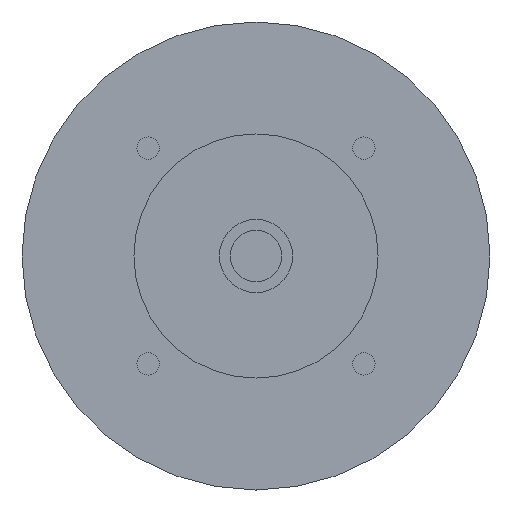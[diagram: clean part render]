
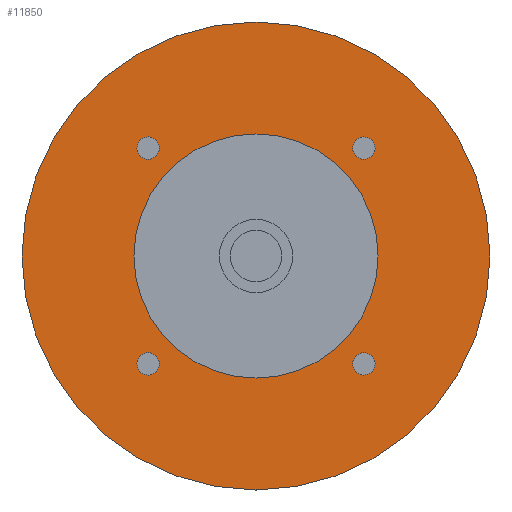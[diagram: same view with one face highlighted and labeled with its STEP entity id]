
A CAD part, left-side view. The second image highlights one B-rep face of the part: STEP entity #11850.
In plain terms, the highlighted planar face has unit normal (-1, 0, 0) as drawn and (0, 0, -1) by its records, which use the part's own axes.
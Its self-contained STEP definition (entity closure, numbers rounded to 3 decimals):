
#8700=CARTESIAN_POINT('',(30.,0.,-47.4));
#8710=VERTEX_POINT('',#8700);
#8740=CARTESIAN_POINT('',(0.,0.,
-47.4));
#8750=DIRECTION('',(0.,0.,1.));
#8760=DIRECTION('',(1.,0.,0.));
#8770=AXIS2_PLACEMENT_3D('',#8740,#8750,#8760);
#8780=CIRCLE('',#8770,30.);
#8790=CARTESIAN_POINT('',(-30.,0.,-47.4));
#8800=VERTEX_POINT('',#8790);
#8810=EDGE_CURVE('',#8710,#8800,#8780,.T.);
#10870=CARTESIAN_POINT('',(29.267,-26.517,-47.4));
#10880=VERTEX_POINT('',#10870);
#10910=CARTESIAN_POINT('',(26.517,-26.517,-47.4));
#10920=DIRECTION('',(0.,0.,1.));
#10930=DIRECTION('',(-1.,0.,0.));
#10940=AXIS2_PLACEMENT_3D('',#10910,#10920,#10930);
#10950=CIRCLE('',#10940,2.75);
#10960=CARTESIAN_POINT('',(23.767,-26.517,-47.4));
#10970=VERTEX_POINT('',#10960);
#10980=EDGE_CURVE('',#10880,#10970,#10950,.T.);
#11100=CARTESIAN_POINT('',(43.75,0.,-47.4));
#11110=DIRECTION('',(0.,0.,-1.));
#11120=DIRECTION('',(1.,0.,0.));
#11130=AXIS2_PLACEMENT_3D('',#11100,#11110,#11120);
#11140=PLANE('',#11130);
#11150=ORIENTED_EDGE('',*,*,#8810,.T.);
#11160=EDGE_CURVE('',#8800,#8710,#8780,.T.);
#11170=ORIENTED_EDGE('',*,*,#11160,.T.);
#11180=EDGE_LOOP('',(#11170,#11150));
#11190=FACE_BOUND('',#11180,.T.);
#11200=CARTESIAN_POINT('',(0.,0.,
-47.4));
#11210=DIRECTION('',(0.,0.,1.));
#11220=DIRECTION('',(1.,0.,0.));
#11230=AXIS2_PLACEMENT_3D('',#11200,#11210,#11220);
#11240=CIRCLE('',#11230,57.5);
#11250=CARTESIAN_POINT('',(57.5,0.,-47.4));
#11260=VERTEX_POINT('',#11250);
#11270=CARTESIAN_POINT('',(-57.5,0.,-47.4));
#11280=VERTEX_POINT('',#11270);
#11290=EDGE_CURVE('',#11260,#11280,#11240,.T.);
#11300=ORIENTED_EDGE('',*,*,#11290,.F.);
#11310=EDGE_CURVE('',#11280,#11260,#11240,.T.);
#11320=ORIENTED_EDGE('',*,*,#11310,.F.);
#11330=EDGE_LOOP('',(#11320,#11300));
#11340=FACE_OUTER_BOUND('',#11330,.T.);
#11350=EDGE_CURVE('',#10970,#10880,#10950,.T.);
#11360=ORIENTED_EDGE('',*,*,#11350,.T.);
#11370=ORIENTED_EDGE('',*,*,#10980,.T.);
#11380=EDGE_LOOP('',(#11370,#11360));
#11390=FACE_BOUND('',#11380,.T.);
#11400=CARTESIAN_POINT('',(-26.517,-26.517,-47.4));
#11410=DIRECTION('',(0.,0.,1.));
#11420=DIRECTION('',(-1.,0.,0.));
#11430=AXIS2_PLACEMENT_3D('',#11400,#11410,#11420);
#11440=CIRCLE('',#11430,2.75);
#11450=CARTESIAN_POINT('',(-29.267,-26.517,-47.4));
#11460=VERTEX_POINT('',#11450);
#11470=CARTESIAN_POINT('',(-23.767,-26.517,-47.4));
#11480=VERTEX_POINT('',#11470);
#11490=EDGE_CURVE('',#11460,#11480,#11440,.T.);
#11500=ORIENTED_EDGE('',*,*,#11490,.T.);
#11510=EDGE_CURVE('',#11480,#11460,#11440,.T.);
#11520=ORIENTED_EDGE('',*,*,#11510,.T.);
#11530=EDGE_LOOP('',(#11520,#11500));
#11540=FACE_BOUND('',#11530,.T.);
#11550=CARTESIAN_POINT('',(-26.517,26.517,-47.4));
#11560=DIRECTION('',(0.,0.,1.));
#11570=DIRECTION('',(-1.,0.,0.));
#11580=AXIS2_PLACEMENT_3D('',#11550,#11560,#11570);
#11590=CIRCLE('',#11580,2.75);
#11600=CARTESIAN_POINT('',(-29.267,26.517,-47.4));
#11610=VERTEX_POINT('',#11600);
#11620=CARTESIAN_POINT('',(-23.767,26.517,-47.4));
#11630=VERTEX_POINT('',#11620);
#11640=EDGE_CURVE('',#11610,#11630,#11590,.T.);
#11650=ORIENTED_EDGE('',*,*,#11640,.T.);
#11660=EDGE_CURVE('',#11630,#11610,#11590,.T.);
#11670=ORIENTED_EDGE('',*,*,#11660,.T.);
#11680=EDGE_LOOP('',(#11670,#11650));
#11690=FACE_BOUND('',#11680,.T.);
#11700=CARTESIAN_POINT('',(26.517,26.517,-47.4));
#11710=DIRECTION('',(0.,0.,1.));
#11720=DIRECTION('',(-1.,0.,0.));
#11730=AXIS2_PLACEMENT_3D('',#11700,#11710,#11720);
#11740=CIRCLE('',#11730,2.75);
#11750=CARTESIAN_POINT('',(23.767,26.517,-47.4));
#11760=VERTEX_POINT('',#11750);
#11770=CARTESIAN_POINT('',(29.267,26.517,-47.4));
#11780=VERTEX_POINT('',#11770);
#11790=EDGE_CURVE('',#11760,#11780,#11740,.T.);
#11800=ORIENTED_EDGE('',*,*,#11790,.T.);
#11810=EDGE_CURVE('',#11780,#11760,#11740,.T.);
#11820=ORIENTED_EDGE('',*,*,#11810,.T.);
#11830=EDGE_LOOP('',(#11820,#11800));
#11840=FACE_BOUND('',#11830,.T.);
#11850=ADVANCED_FACE('',(#11190,#11340,#11390,#11540,#11690,#11840),
#11140,.T.);
